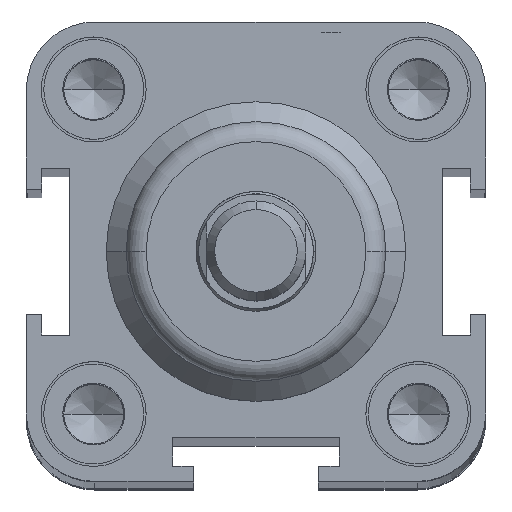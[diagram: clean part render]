
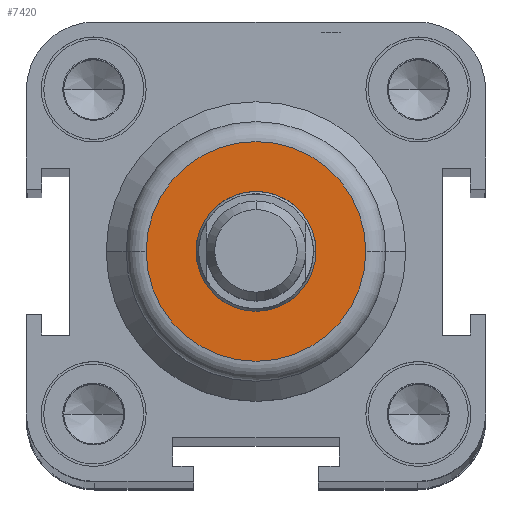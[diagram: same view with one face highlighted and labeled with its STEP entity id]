
A CAD part, top view. The second image highlights one B-rep face of the part: STEP entity #7420.
In plain terms, the highlighted planar face has unit normal (0, 0, 1).
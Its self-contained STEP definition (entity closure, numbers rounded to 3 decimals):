
#1472=CARTESIAN_POINT('',(-11.,0.0,263.0));
#1473=VERTEX_POINT('',#1472);
#1481=CARTESIAN_POINT('',(11.,0.,263.0));
#1482=VERTEX_POINT('',#1481);
#1483=CARTESIAN_POINT('',(0.0,0.0,263.0));
#1484=DIRECTION('',(0.0,0.0,-1.0));
#1485=DIRECTION('',(-1.0,0.0,0.0));
#1486=AXIS2_PLACEMENT_3D('',#1483,#1484,#1485);
#1487=CIRCLE('',#1486,11.);
#1488=EDGE_CURVE('',#1473,#1482,#1487,.T.);
#1593=CARTESIAN_POINT('',(6.,0.0,263.0));
#1594=VERTEX_POINT('',#1593);
#1610=CARTESIAN_POINT('',(-6.,0.,263.0));
#1611=VERTEX_POINT('',#1610);
#1618=CARTESIAN_POINT('',(0.0,0.0,263.0));
#1619=DIRECTION('',(0.0,0.0,-1.0));
#1620=DIRECTION('',(1.0,0.0,0.0));
#1621=AXIS2_PLACEMENT_3D('',#1618,#1619,#1620);
#1622=CIRCLE('',#1621,6.);
#1623=EDGE_CURVE('',#1594,#1611,#1622,.T.);
#7347=CARTESIAN_POINT('',(0.0,0.0,263.0));
#7348=DIRECTION('',(0.0,0.0,-1.0));
#7349=DIRECTION('',(1.0,0.0,0.0));
#7350=AXIS2_PLACEMENT_3D('',#7347,#7348,#7349);
#7351=CIRCLE('',#7350,6.);
#7352=EDGE_CURVE('',#1611,#1594,#7351,.T.);
#7401=CARTESIAN_POINT('',(-5.5,0.0,263.0));
#7402=DIRECTION('',(0.0,0.0,1.0));
#7403=DIRECTION('',(1.0,0.0,0.0));
#7404=AXIS2_PLACEMENT_3D('',#7401,#7402,#7403);
#7405=PLANE('',#7404);
#7406=ORIENTED_EDGE('',*,*,#1488,.F.);
#7407=CARTESIAN_POINT('',(0.0,0.0,263.0));
#7408=DIRECTION('',(0.0,0.0,-1.0));
#7409=DIRECTION('',(-1.0,0.0,0.0));
#7410=AXIS2_PLACEMENT_3D('',#7407,#7408,#7409);
#7411=CIRCLE('',#7410,11.);
#7412=EDGE_CURVE('',#1482,#1473,#7411,.T.);
#7413=ORIENTED_EDGE('',*,*,#7412,.F.);
#7414=EDGE_LOOP('',(#7406,#7413));
#7415=FACE_OUTER_BOUND('',#7414,.T.);
#7416=ORIENTED_EDGE('',*,*,#1623,.T.);
#7417=ORIENTED_EDGE('',*,*,#7352,.T.);
#7418=EDGE_LOOP('',(#7416,#7417));
#7419=FACE_BOUND('',#7418,.T.);
#7420=ADVANCED_FACE('',(#7415,#7419),#7405,.T.);
